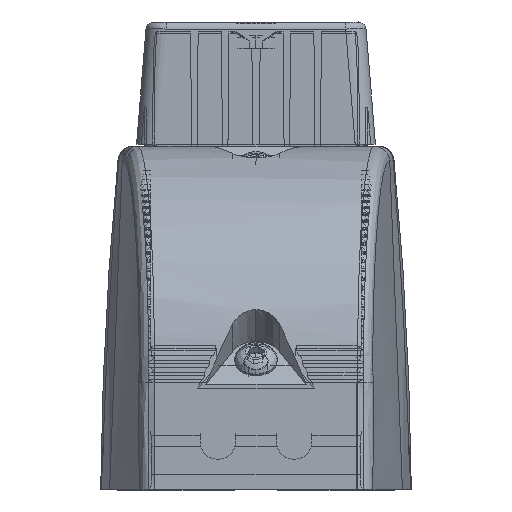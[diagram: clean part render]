
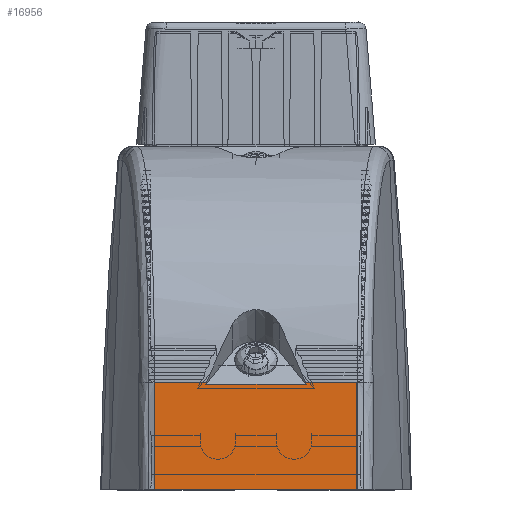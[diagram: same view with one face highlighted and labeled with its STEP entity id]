
A CAD part, left-side view. The second image highlights one B-rep face of the part: STEP entity #16956.
In plain terms, the highlighted planar face has unit normal (-1, 0, 0).
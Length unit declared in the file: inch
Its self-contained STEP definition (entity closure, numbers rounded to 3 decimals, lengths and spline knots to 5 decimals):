
#375 = LINE ( 'NONE', #92903, #137215 ) ;
#2340 = VERTEX_POINT ( 'NONE', #112297 ) ;
#4202 = B_SPLINE_CURVE_WITH_KNOTS ( 'NONE', 3,
 ( #104845, #82485, #126317, #71806 ),
 .UNSPECIFIED., .F., .F.,
 ( 4, 4 ),
 ( 0., 0.02301 ),
 .UNSPECIFIED. ) ;
#4709 = EDGE_CURVE ( 'NONE', #89187, #62711, #95552, .T. ) ;
#5651 = ORIENTED_EDGE ( 'NONE', *, *, #69385, .F. ) ;
#8375 = VECTOR ( 'NONE', #96643, 39.37008 ) ;
#8429 = CARTESIAN_POINT ( 'NONE',  ( -1.99958, 1.5, 0.906 ) ) ;
#8919 = DIRECTION ( 'NONE',  ( 0., -1., 0. ) ) ;
#11363 = CARTESIAN_POINT ( 'NONE',  ( -1.99958, 0.41733, 0.906 ) ) ;
#16956 = ADVANCED_FACE ( 'NONE', ( #18353 ), #131939, .T. ) ;
#18353 = FACE_OUTER_BOUND ( 'NONE', #83663, .T. ) ;
#20398 = VERTEX_POINT ( 'NONE', #82408 ) ;
#28940 = LINE ( 'NONE', #86951, #35577 ) ;
#29168 = ORIENTED_EDGE ( 'NONE', *, *, #66515, .T. ) ;
#30006 = CARTESIAN_POINT ( 'NONE',  ( -1.99958, 0.85887, 0. ) ) ;
#32487 = ORIENTED_EDGE ( 'NONE', *, *, #55917, .F. ) ;
#34039 = DIRECTION ( 'NONE',  ( 0., -1., 0. ) ) ;
#34610 = EDGE_CURVE ( 'NONE', #51714, #106231, #28940, .T. ) ;
#35577 = VECTOR ( 'NONE', #88266, 39.37008 ) ;
#37368 = VECTOR ( 'NONE', #82409, 39.37008 ) ;
#38837 = VECTOR ( 'NONE', #8919, 39.37008 ) ;
#40996 = B_SPLINE_CURVE_WITH_KNOTS ( 'NONE', 3,
 ( #108245, #56472, #118998, #44362 ),
 .UNSPECIFIED., .F., .F.,
 ( 4, 4 ),
 ( 0., 0.02301 ),
 .UNSPECIFIED. ) ;
#44362 = CARTESIAN_POINT ( 'NONE',  ( -1.99958, -0.85932, 0.906 ) ) ;
#51714 = VERTEX_POINT ( 'NONE', #30006 ) ;
#52273 = CARTESIAN_POINT ( 'NONE',  ( -1.99958, -0.85887, 0. ) ) ;
#55917 = EDGE_CURVE ( 'NONE', #62711, #2340, #124112, .T. ) ;
#56472 = CARTESIAN_POINT ( 'NONE',  ( -1.99958, -0.86336, 0.302 ) ) ;
#59481 = EDGE_CURVE ( 'NONE', #116384, #2340, #63564, .T. ) ;
#60753 = ORIENTED_EDGE ( 'NONE', *, *, #104841, .F. ) ;
#60983 = CARTESIAN_POINT ( 'NONE',  ( -1.99958, 0.85932, 0.906 ) ) ;
#62043 = EDGE_CURVE ( 'NONE', #89187, #51714, #4202, .T. ) ;
#62711 = VERTEX_POINT ( 'NONE', #11363 ) ;
#63189 = CARTESIAN_POINT ( 'NONE',  ( -1.99958, 1.5, 0.8913 ) ) ;
#63564 = LINE ( 'NONE', #63189, #8375 ) ;
#66515 = EDGE_CURVE ( 'NONE', #106231, #20398, #40996, .T. ) ;
#69385 = EDGE_CURVE ( 'NONE', #116384, #109079, #375, .T. ) ;
#69880 = ORIENTED_EDGE ( 'NONE', *, *, #59481, .T. ) ;
#69996 = VECTOR ( 'NONE', #34039, 39.37008 ) ;
#71644 = LINE ( 'NONE', #97839, #69996 ) ;
#71806 = CARTESIAN_POINT ( 'NONE',  ( -1.99958, 0.85887, 0. ) ) ;
#78832 = DIRECTION ( 'NONE',  ( -1., 0., 0. ) ) ;
#82408 = CARTESIAN_POINT ( 'NONE',  ( -1.99958, -0.85932, 0.906 ) ) ;
#82409 = DIRECTION ( 'NONE',  ( 0., 0.367, -0.93 ) ) ;
#82485 = CARTESIAN_POINT ( 'NONE',  ( -1.99958, 0.86351, 0.604 ) ) ;
#83167 = ORIENTED_EDGE ( 'NONE', *, *, #34610, .T. ) ;
#83663 = EDGE_LOOP ( 'NONE', ( #83167, #29168, #60753, #5651, #69880, #32487, #110114, #131969 ) ) ;
#86951 = CARTESIAN_POINT ( 'NONE',  ( -1.99958, 1.5, 0. ) ) ;
#88266 = DIRECTION ( 'NONE',  ( 0., -1., 0. ) ) ;
#89187 = VERTEX_POINT ( 'NONE', #60983 ) ;
#89474 = DIRECTION ( 'NONE',  ( 0., 0., 1. ) ) ;
#92164 = CARTESIAN_POINT ( 'NONE',  ( -1.99958, 0.56281, 0.53675 ) ) ;
#92903 = CARTESIAN_POINT ( 'NONE',  ( -1.99958, -0.15969, 1.55991 ) ) ;
#95552 = LINE ( 'NONE', #8429, #38837 ) ;
#96643 = DIRECTION ( 'NONE',  ( 0., 1., 0. ) ) ;
#97839 = CARTESIAN_POINT ( 'NONE',  ( -1.99958, 1.5, 0.906 ) ) ;
#103622 = DIRECTION ( 'NONE',  ( 0., 0.367, 0.93 ) ) ;
#104841 = EDGE_CURVE ( 'NONE', #109079, #20398, #71644, .T. ) ;
#104845 = CARTESIAN_POINT ( 'NONE',  ( -1.99958, 0.85932, 0.906 ) ) ;
#106231 = VERTEX_POINT ( 'NONE', #52273 ) ;
#108245 = CARTESIAN_POINT ( 'NONE',  ( -1.99958, -0.85887, 0. ) ) ;
#109079 = VERTEX_POINT ( 'NONE', #109228 ) ;
#109228 = CARTESIAN_POINT ( 'NONE',  ( -1.99958, -0.41733, 0.906 ) ) ;
#110114 = ORIENTED_EDGE ( 'NONE', *, *, #4709, .F. ) ;
#112297 = CARTESIAN_POINT ( 'NONE',  ( -1.99958, 0.42312, 0.8913 ) ) ;
#116384 = VERTEX_POINT ( 'NONE', #127950 ) ;
#118998 = CARTESIAN_POINT ( 'NONE',  ( -1.99958, -0.86351, 0.604 ) ) ;
#124112 = LINE ( 'NONE', #92164, #37368 ) ;
#126317 = CARTESIAN_POINT ( 'NONE',  ( -1.99958, 0.86336, 0.302 ) ) ;
#127121 = AXIS2_PLACEMENT_3D ( 'NONE', #132417, #78832, #89474 ) ;
#127950 = CARTESIAN_POINT ( 'NONE',  ( -1.99958, -0.42312, 0.8913 ) ) ;
#131939 = PLANE ( 'NONE',  #127121 ) ;
#131969 = ORIENTED_EDGE ( 'NONE', *, *, #62043, .T. ) ;
#132417 = CARTESIAN_POINT ( 'NONE',  ( -1.99958, 1.5, 0.906 ) ) ;
#137215 = VECTOR ( 'NONE', #103622, 39.37008 ) ;
